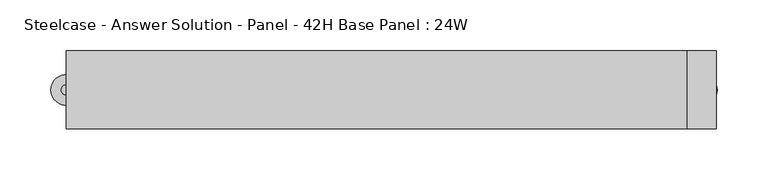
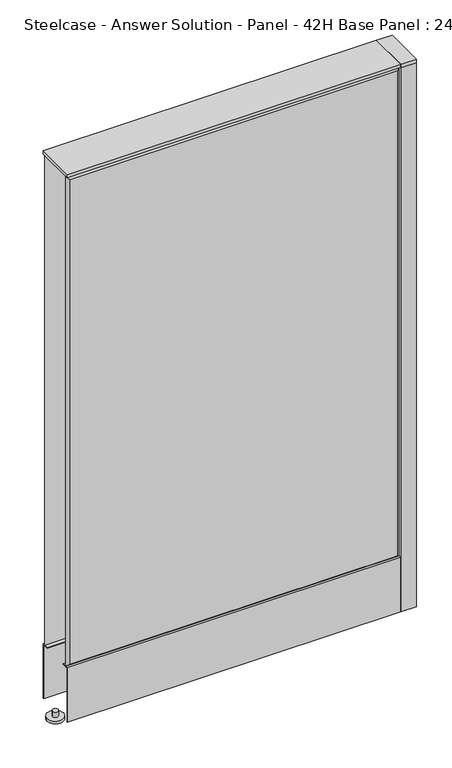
"""IFC4 building model written with IfcOpenShell, lengths in millimetres: furniture geometry, Steelcase - Answer Solution - Panel - 42H Base Panel : 24W."""

from ifc_helpers import new_model, si_unit, point, frame, frame_2d, origin, place, context, project, spatial, polyline, circle_curve, trimmed, segment, composite_curve, outline, extrude, faceted_brep, source, transform, mapped, element, save


def steelcase_answer_solution_panel_42h_base_panel_24w_c1a1ad9f(model_context):
    return source(origin(), model_context, "Body", "SolidModel", [
        extrude(outline(composite_curve([segment(trimmed(circle_curve(frame_2d((319.024, -0.0039657)), 5.08), [point((324.104, -0.0039657))], [point((313.944, -0.0039657))], False, "CARTESIAN"), True, "CONTINUOUS"), segment(trimmed(circle_curve(frame_2d((319.024, -0.0039657)), 5.08), [point((313.944, -0.0039657))], [point((324.104, -0.0039657))], False, "CARTESIAN"), True, "CONTINUOUS")], self_intersect=False)), frame((0.0, 0.0, 5.0799671), z_axis=(0.0, 0.0, 1.0), x_axis=(1.0, 0.0, 0.0)), (0.0, 0.0, 1.0), 10.414),
        extrude(outline(composite_curve([segment(trimmed(circle_curve(frame_2d((319.024, -0.0039657)), 15.24), [point((334.264, -0.0039657))], [point((303.784, -0.0039657))], False, "CARTESIAN"), True, "CONTINUOUS"), segment(trimmed(circle_curve(frame_2d((319.024, -0.0039657)), 15.24), [point((303.784, -0.0039657))], [point((334.264, -0.0039657))], False, "CARTESIAN"), True, "CONTINUOUS")], self_intersect=False)), frame((0.0, 0.0, -3.29e-05), z_axis=(0.0, 0.0, 1.0), x_axis=(1.0, 0.0, 0.0)), (0.0, 0.0, 1.0), 5.08),
        extrude(outline(polyline([(333.375, -38.1039851), (304.8, -38.1039851), (304.8, 38.0960149), (333.375, 38.0960149), (333.375, -38.1039851)])), frame((0.0, 0.0, 1065.8348), z_axis=(0.0, 0.0, 1.0), x_axis=(1.0, 0.0, 0.0)), (0.0, 0.0, 1.0), 7.3151671),
        extrude(outline(polyline([(333.375, -38.1039851), (304.8, -38.1039851), (304.8, 38.0960149), (333.375, 38.0960149), (333.375, -38.1039851)])), frame((0.0, 0.0, 15.4939671), z_axis=(0.0, 0.0, 1.0), x_axis=(1.0, 0.0, 0.0)), (0.0, 0.0, 1.0), 1050.3408329),
        extrude(outline(composite_curve([segment(trimmed(circle_curve(frame_2d((-304.8, -0.0039657)), 5.08), [point((-309.88, -0.0039657))], [point((-299.72, -0.0039657))], False, "CARTESIAN"), True, "CONTINUOUS"), segment(trimmed(circle_curve(frame_2d((-304.8, -0.0039657)), 5.08), [point((-299.72, -0.0039657))], [point((-309.88, -0.0039657))], False, "CARTESIAN"), True, "CONTINUOUS")], self_intersect=False)), frame((0.0, 0.0, 5.0799671), z_axis=(0.0, 0.0, 1.0), x_axis=(1.0, 0.0, 0.0)), (0.0, 0.0, 1.0), 10.414),
        extrude(outline(composite_curve([segment(trimmed(circle_curve(frame_2d((-304.8, -0.0039657)), 15.24), [point((-320.04, -0.0039657))], [point((-289.56, -0.0039657))], False, "CARTESIAN"), True, "CONTINUOUS"), segment(trimmed(circle_curve(frame_2d((-304.8, -0.0039657)), 15.24), [point((-289.56, -0.0039657))], [point((-320.04, -0.0039657))], False, "CARTESIAN"), True, "CONTINUOUS")], self_intersect=False)), frame((0.0, 0.0, -3.29e-05), z_axis=(0.0, 0.0, 1.0), x_axis=(1.0, 0.0, 0.0)), (0.0, 0.0, 1.0), 5.08),
        faceted_brep([(-299.974, -38.1635011, 1061.974), (-299.974, -38.1635011, 125.476), (299.974, -38.1635011, 125.476), (299.974, -38.1635011, 1061.974), (-304.8, -33.3375011, 1066.8), (304.8, -33.3375011, 1066.8), (304.8, -33.3375011, 120.65), (-304.8, -33.3375011, 120.65)], [[[0, 1, 2, 3]], [[4, 5, 6, 7]], [[4, 0, 3, 5]], [[5, 3, 2, 6]], [[6, 2, 1, 7]], [[7, 1, 0, 4]]]),
        faceted_brep([(299.974, 38.1635011, 1061.974), (299.974, 38.1635011, 125.476), (-299.974, 38.1635011, 125.476), (-299.974, 38.1635011, 1061.974), (304.8, 33.3375011, 1066.8), (-304.8, 33.3375011, 1066.8), (-304.8, 33.3375011, 120.65), (304.8, 33.3375011, 120.65)], [[[0, 1, 2, 3]], [[4, 5, 6, 7]], [[4, 0, 3, 5]], [[5, 3, 2, 6]], [[6, 2, 1, 7]], [[7, 1, 0, 4]]]),
        extrude(outline(polyline([(304.8, -38.1000194), (-304.8, -38.1000194), (-304.8, 38.1000194), (304.8, 38.1000194), (304.8, -38.1000194)])), frame((0.0, 0.0, 1066.8), z_axis=(0.0, 0.0, 1.0), x_axis=(1.0, 0.0, 0.0)), (0.0, 0.0, 1.0), 6.35),
        extrude(outline(polyline([(-25.4000011, 119.8575157), (-37.3075215, 119.8575157), (-37.3075215, 15.494), (-38.1000194, 15.494), (-38.1000194, 120.65), (-25.4000011, 120.65), (-25.4000011, 119.8575157)])), frame((-304.8, 0.0, 0.0), z_axis=(1.0, 0.0, 0.0), x_axis=(0.0, 1.0, 0.0)), (0.0, 0.0, 1.0), 609.6),
        extrude(outline(polyline([(25.4000011, 119.8575157), (25.4000011, 120.65), (38.1000194, 120.65), (38.1000194, 15.494), (37.3075215, 15.494), (37.3075215, 119.8575157), (25.4000011, 119.8575157)])), frame((-304.8, 0.0, 0.0), z_axis=(1.0, 0.0, 0.0), x_axis=(0.0, 1.0, 0.0)), (0.0, 0.0, 1.0), 609.6),
    ])


if __name__ == "__main__":
    model = new_model("IFC4")
    model_context = context("Model", 3, world=origin())
    ifc_project = project(units=[si_unit("LENGTHUNIT", "METRE", prefix="MILLI")], contexts=[model_context])
    site = spatial("IfcSite", under=ifc_project)
    building = spatial("IfcBuilding", under=site)
    placement = place(None, origin())
    steelcase_answer_solution_panel_42h_base_panel_24w_shape = steelcase_answer_solution_panel_42h_base_panel_24w_c1a1ad9f(model_context)
    element("IfcFurniture", 1, ObjectType="Steelcase - Answer Solution - Panel - 42H Base Panel : 24W", at=placement, inside=building, context=model_context, shape_type="MappedRepresentation", body=[
        mapped(steelcase_answer_solution_panel_42h_base_panel_24w_shape, transform((0.0, 0.0, 0.0), x_axis=(1.0, 0.0, 0.0), y_axis=(0.0, 1.0, 0.0), z_axis=(0.0, 0.0, 1.0))),
    ])
    save(model, "model.ifc")
